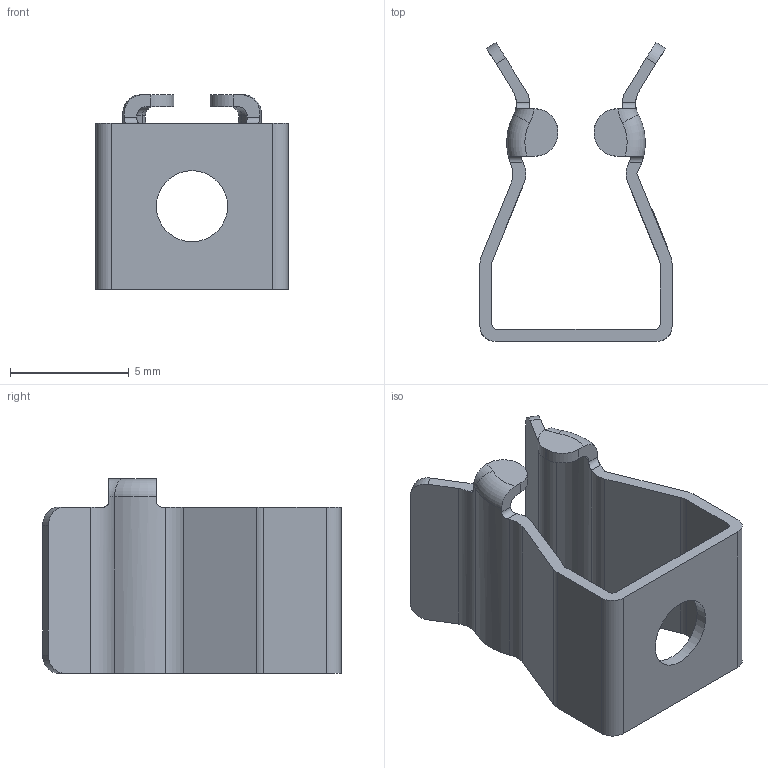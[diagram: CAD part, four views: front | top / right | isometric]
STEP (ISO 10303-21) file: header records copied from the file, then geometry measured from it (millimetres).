
FILE_DESCRIPTION(/* description */ (''),/* implementation_level */ '2;1');
FILE_NAME(/* name */ 'C:\Users\Hani\Desktop\work\CSA-06\CSA-06.stp',/* time_stamp */ '2021-10-29T14:38:39-07:00',/* author */ ('Hani'),/* organization */ (''),/* preprocessor_version */ 'ST-DEVELOPER v17',/* originating_system */ 'Autodesk Inventor 2019',/* authorisation */ '');
FILE_SCHEMA (('AUTOMOTIVE_DESIGN { 1 0 10303 214 3 1 1 }'));
Length unit declared in the file: inch
Products named in the file (1): CSA-06
Bounding box: 8.1 x 12.6 x 8.2 mm (x, y, z)
Volume: 117.7 mm3; surface area: 517.1 mm2
Topology: 1 solids, 1 shells, 206 faces, 571 edges, 379 vertices
Faces by surface type: plane 99, bspline 67, cylinder 32, torus 8
Full cylindrical faces by diameter (mm): 3 x1
Entity records: 7302 total; most frequent: CARTESIAN_POINT 2393, ORIENTED_EDGE 1142, DIRECTION 774, EDGE_CURVE 571, VERTEX_POINT 379, LINE 344, VECTOR 344, EDGE_LOOP 220
